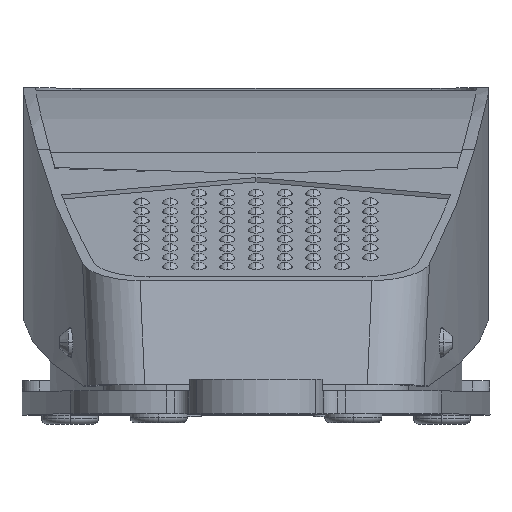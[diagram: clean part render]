
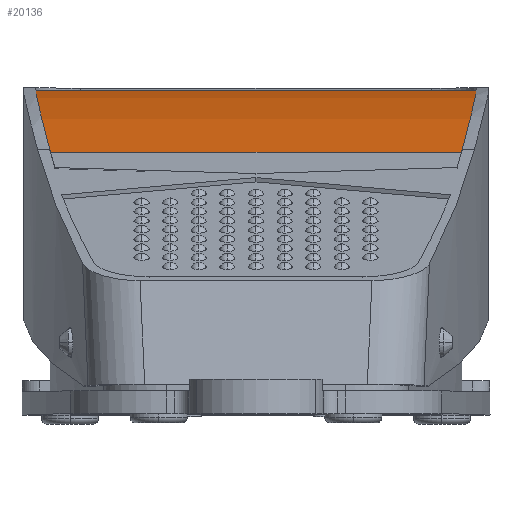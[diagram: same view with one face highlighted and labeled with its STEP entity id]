
A CAD part, top view. The second image highlights one B-rep face of the part: STEP entity #20136.
In plain terms, the highlighted cylindrical face has radius 203 mm (diameter 406 mm), a partial arc.
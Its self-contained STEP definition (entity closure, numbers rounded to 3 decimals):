
#121=CARTESIAN_POINT('',(-38.6,56.695,-107.526));
#122=CARTESIAN_POINT('',(-38.633,56.633,-102.132));
#123=CARTESIAN_POINT('',(-38.576,56.081,-91.386));
#124=CARTESIAN_POINT('',(-38.115,53.978,-75.367));
#125=CARTESIAN_POINT('',(-37.286,50.609,-59.568));
#126=CARTESIAN_POINT('',(-36.489,47.54,-49.278));
#127=CARTESIAN_POINT('',(-36.037,45.8,-44.186));
#152=CARTESIAN_POINT('',(-30.6,56.626,-115.582));
#153=CARTESIAN_POINT('',(-31.191,56.626,-115.582));
#154=CARTESIAN_POINT('',(-32.377,56.63,-115.449));
#155=CARTESIAN_POINT('',(-34.084,56.646,-114.852));
#156=CARTESIAN_POINT('',(-35.614,56.668,-113.887));
#157=CARTESIAN_POINT('',(-36.898,56.691,-112.599));
#158=CARTESIAN_POINT('',(-37.867,56.706,-111.051));
#159=CARTESIAN_POINT('',(-38.465,56.71,-109.332));
#160=CARTESIAN_POINT('',(-38.6,56.702,-108.128));
#161=CARTESIAN_POINT('',(-38.6,56.695,-107.526));
#7222=CARTESIAN_POINT('',(36.037,45.801,-44.186));
#7223=CARTESIAN_POINT('',(36.489,47.541,-49.279));
#7224=CARTESIAN_POINT('',(37.287,50.609,-59.571));
#7225=CARTESIAN_POINT('',(38.115,53.979,-75.373));
#7226=CARTESIAN_POINT('',(38.576,56.082,-91.394));
#7227=CARTESIAN_POINT('',(38.633,56.633,-102.135));
#7228=CARTESIAN_POINT('',(38.6,56.695,-107.526));
#7241=CARTESIAN_POINT('',(38.6,56.695,-107.526));
#7242=CARTESIAN_POINT('',(38.6,56.701,-108.123));
#7243=CARTESIAN_POINT('',(38.467,56.71,-109.321));
#7244=CARTESIAN_POINT('',(37.873,56.706,-111.039));
#7245=CARTESIAN_POINT('',(36.905,56.691,-112.592));
#7246=CARTESIAN_POINT('',(35.618,56.668,-113.885));
#7247=CARTESIAN_POINT('',(34.083,56.646,-114.853));
#7248=CARTESIAN_POINT('',(32.373,56.63,-115.45));
#7249=CARTESIAN_POINT('',(31.189,56.626,-115.582));
#7250=CARTESIAN_POINT('',(30.6,56.626,-115.582));
#7252=DIRECTION('',(-1.,0.,0.));
#7253=VECTOR('',#7252,36.037);
#7254=CARTESIAN_POINT('',(36.037,45.801,-44.186));
#7255=LINE('',#7254,#7253);
#7256=DIRECTION('',(-1.,0.,0.));
#7257=VECTOR('',#7256,36.037);
#7258=CARTESIAN_POINT('',(0.,45.8,-44.186));
#7259=LINE('',#7258,#7257);
#7295=DIRECTION('',(-1.,0.,0.));
#7296=VECTOR('',#7295,61.2);
#7297=CARTESIAN_POINT('',(30.6,56.626,-115.582));
#7298=LINE('',#7297,#7296);
#10434=CARTESIAN_POINT('',(36.037,45.801,
-44.186));
#10435=VERTEX_POINT('',#10434);
#10436=CARTESIAN_POINT('',(-36.037,45.8,
-44.186));
#10437=VERTEX_POINT('',#10436);
#10438=VERTEX_POINT('',#7241);
#10439=VERTEX_POINT('',#7250);
#10440=CARTESIAN_POINT('',(0.,45.8,-44.186));
#10441=VERTEX_POINT('',#10440);
#10442=VERTEX_POINT('',#152);
#10443=VERTEX_POINT('',#161);
#20119=CARTESIAN_POINT('',(-40.16,-146.292,
-109.832));
#20120=DIRECTION('',(1.,0.,0.));
#20121=DIRECTION('',(0.,-0.994,-0.109));
#20122=AXIS2_PLACEMENT_3D('',#20119,#20120,#20121);
#20123=CYLINDRICAL_SURFACE('',#20122,203.);
#20124=ORIENTED_EDGE('',*,*,#20112,.F.);
#20125=ORIENTED_EDGE('',*,*,#20100,.F.);
#20127=ORIENTED_EDGE('',*,*,#20126,.T.);
#20129=ORIENTED_EDGE('',*,*,#20128,.T.);
#20130=ORIENTED_EDGE('',*,*,#11231,.F.);
#20131=ORIENTED_EDGE('',*,*,#11248,.F.);
#20133=ORIENTED_EDGE('',*,*,#20132,.F.);
#20134=EDGE_LOOP('',(#20124,#20125,#20127,#20129,#20130,#20131,#20133));
#20135=FACE_OUTER_BOUND('',#20134,.F.);
#20136=ADVANCED_FACE('',(#20135),#20123,.T.);
#128=B_SPLINE_CURVE_WITH_KNOTS('',3,(#121,#122,#123,#124,#125,#126,#127),
.UNSPECIFIED.,.F.,.F.,(4,1,1,1,4),(0.,0.25,0.5,0.75,1.),
.UNSPECIFIED.);
#162=B_SPLINE_CURVE_WITH_KNOTS('',3,(#152,#153,#154,#155,#156,#157,#158,#159,
#160,#161),.UNSPECIFIED.,.F.,.F.,(4,1,1,1,1,1,1,4),(0.,0.143,
0.286,0.429,0.571,0.714,
0.857,1.),.UNSPECIFIED.);
#7229=B_SPLINE_CURVE_WITH_KNOTS('',3,(#7222,#7223,#7224,#7225,#7226,#7227,
#7228),.UNSPECIFIED.,.F.,.F.,(4,1,1,1,4),(0.,0.25,0.5,0.75,1.),
.UNSPECIFIED.);
#7251=B_SPLINE_CURVE_WITH_KNOTS('',3,(#7241,#7242,#7243,#7244,#7245,#7246,#7247,
#7248,#7249,#7250),.UNSPECIFIED.,.F.,.F.,(4,1,1,1,1,1,1,4),(0.,
0.143,0.286,0.429,0.571,
0.714,0.857,1.),.UNSPECIFIED.);
#11231=EDGE_CURVE('',#10443,#10437,#128,.T.);
#11248=EDGE_CURVE('',#10442,#10443,#162,.T.);
#20100=EDGE_CURVE('',#10435,#10438,#7229,.T.);
#20112=EDGE_CURVE('',#10438,#10439,#7251,.T.);
#20126=EDGE_CURVE('',#10435,#10441,#7255,.T.);
#20128=EDGE_CURVE('',#10441,#10437,#7259,.T.);
#20132=EDGE_CURVE('',#10439,#10442,#7298,.T.);
